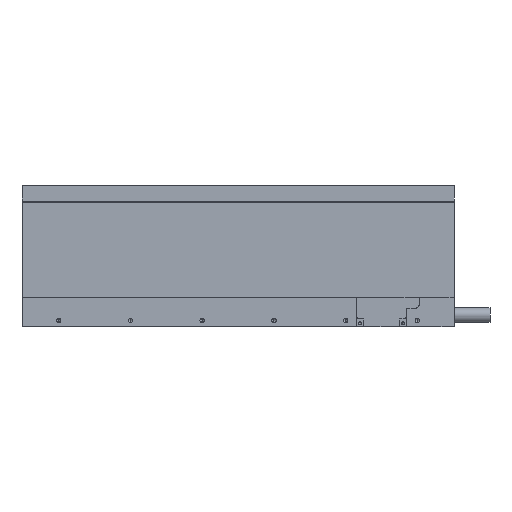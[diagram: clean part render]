
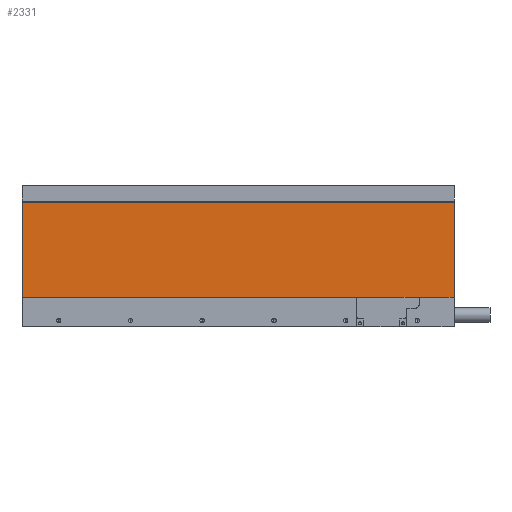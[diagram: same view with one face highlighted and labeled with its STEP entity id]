
A CAD part, left-side view. The second image highlights one B-rep face of the part: STEP entity #2331.
In plain terms, the highlighted planar face has unit normal (-1, 0, 0).
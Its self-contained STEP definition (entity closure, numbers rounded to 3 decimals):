
#25 = VECTOR ( 'NONE', #647, 1000. ) ;
#355 = DIRECTION ( 'NONE',  ( 0., 0., -1. ) ) ;
#579 = VERTEX_POINT ( 'NONE', #2668 ) ;
#580 = EDGE_CURVE ( 'NONE', #2969, #1089, #1046, .T. ) ;
#600 = VECTOR ( 'NONE', #2645, 1000. ) ;
#605 = CARTESIAN_POINT ( 'NONE',  ( -3.6, 0., -9.5 ) ) ;
#647 = DIRECTION ( 'NONE',  ( 0., 0., 1. ) ) ;
#748 = DIRECTION ( 'NONE',  ( 1., 0., 0. ) ) ;
#1046 = LINE ( 'NONE', #3830, #25 ) ;
#1089 = VERTEX_POINT ( 'NONE', #605 ) ;
#1275 = ORIENTED_EDGE ( 'NONE', *, *, #2168, .F. ) ;
#1452 = EDGE_CURVE ( 'NONE', #579, #1089, #2127, .T. ) ;
#1574 = VECTOR ( 'NONE', #3664, 1000. ) ;
#1814 = VECTOR ( 'NONE', #2819, 1000. ) ;
#1819 = ORIENTED_EDGE ( 'NONE', *, *, #580, .T. ) ;
#1843 = CARTESIAN_POINT ( 'NONE',  ( -3.6, 241., -62.6 ) ) ;
#2127 = LINE ( 'NONE', #2864, #1574 ) ;
#2168 = EDGE_CURVE ( 'NONE', #3185, #579, #3828, .T. ) ;
#2201 = FACE_OUTER_BOUND ( 'NONE', #4004, .T. ) ;
#2305 = PLANE ( 'NONE',  #2644 ) ;
#2331 = ADVANCED_FACE ( 'NONE', ( #2201 ), #2305, .F. ) ;
#2520 = ORIENTED_EDGE ( 'NONE', *, *, #4665, .T. ) ;
#2644 = AXIS2_PLACEMENT_3D ( 'NONE', #5006, #748, #355 ) ;
#2645 = DIRECTION ( 'NONE',  ( 0., 0., 1. ) ) ;
#2668 = CARTESIAN_POINT ( 'NONE',  ( -3.6, 241., -9.5 ) ) ;
#2727 = CARTESIAN_POINT ( 'NONE',  ( -3.6, 0., -62.6 ) ) ;
#2819 = DIRECTION ( 'NONE',  ( 0., -1., 0. ) ) ;
#2832 = LINE ( 'NONE', #4429, #1814 ) ;
#2864 = CARTESIAN_POINT ( 'NONE',  ( -3.6, 241., -9.5 ) ) ;
#2969 = VERTEX_POINT ( 'NONE', #2727 ) ;
#3185 = VERTEX_POINT ( 'NONE', #4844 ) ;
#3664 = DIRECTION ( 'NONE',  ( 0., -1., 0. ) ) ;
#3828 = LINE ( 'NONE', #1843, #600 ) ;
#3830 = CARTESIAN_POINT ( 'NONE',  ( -3.6, 0., -62.6 ) ) ;
#4004 = EDGE_LOOP ( 'NONE', ( #1819, #4293, #1275, #2520 ) ) ;
#4293 = ORIENTED_EDGE ( 'NONE', *, *, #1452, .F. ) ;
#4429 = CARTESIAN_POINT ( 'NONE',  ( -3.6, 241., -62.6 ) ) ;
#4665 = EDGE_CURVE ( 'NONE', #3185, #2969, #2832, .T. ) ;
#4844 = CARTESIAN_POINT ( 'NONE',  ( -3.6, 241., -62.6 ) ) ;
#5006 = CARTESIAN_POINT ( 'NONE',  ( -3.6, 241., -62.6 ) ) ;
